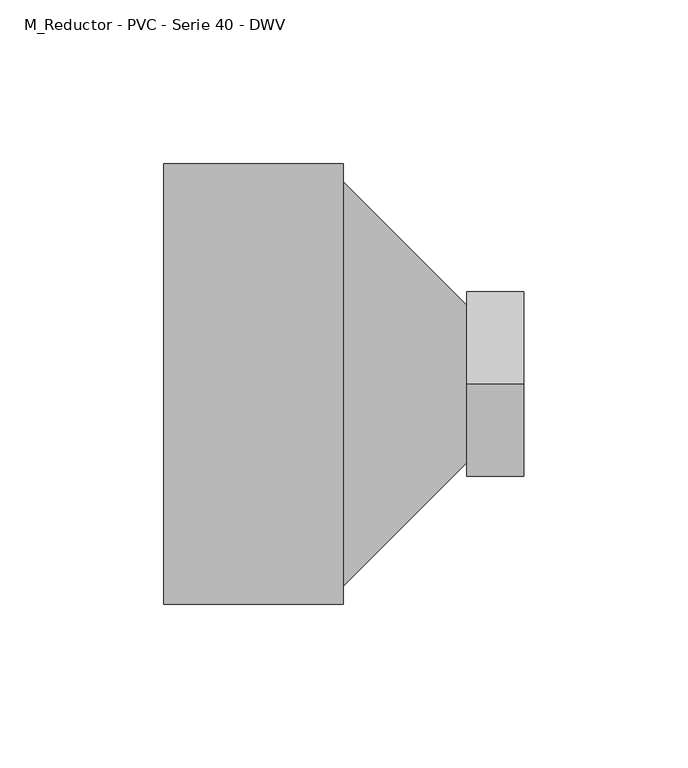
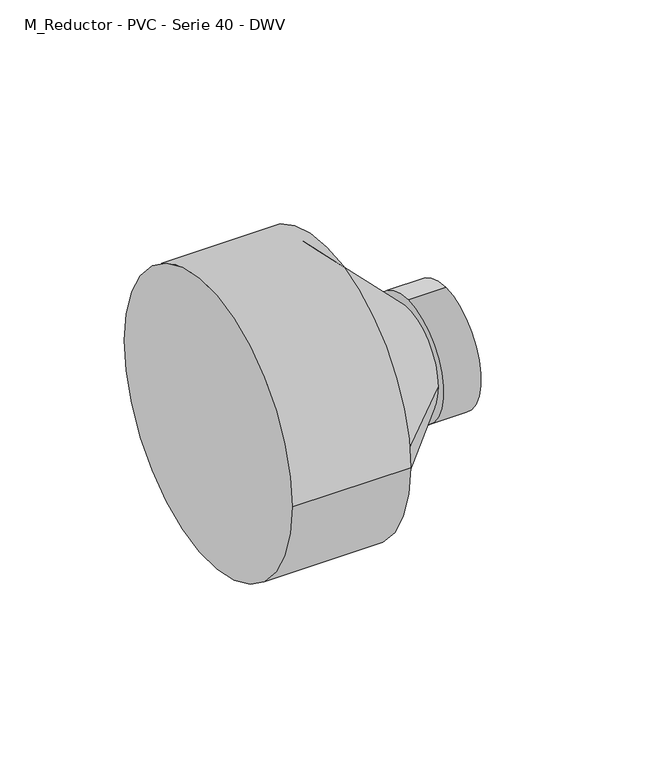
"""IFC4 building model written with IfcOpenShell, lengths in millimetres: pipe fitting geometry, M_Reductor - PVC - Serie 40 - DWV : Estándar."""

from ifc_helpers import new_model, si_unit, frame, origin, place, context, project, spatial, polyline, circle_curve, source, transform, mapped, element, save
from ifc_brep_helpers import plane_surface, cylinder_surface, revolved_surface, advanced_brep


def m_reductor_pvc_serie_40_dwv_9124daea(model_context):
    return source(origin(), model_context, "Body", "AdvancedBrep", [
        advanced_brep(
        [(0.0, -67.3871094, 0.0), (0.0, 67.3871094, 0.0), (55.0, -67.3871094, 0.0), (55.0, 67.3871094, 0.0), (55.0, 61.7640625, 0.0), (55.0, -61.7640625, 0.0), (92.7462938, 24.13, 0.0), (92.7462938, -24.13, 0.0), (92.7462938, 0.0, 28.2829), (92.7462938, 0.0, -28.2829), (110.1960938, 0.0, 28.2829), (110.1960938, 0.0, -28.2829)],
        [
            (0, 1, circle_curve(frame((0.0, 0.0, 0.0), z_axis=(-1.0, 0.0, 0.0), x_axis=(0.0, 1.0, 0.0)), 67.3871094)),
            (1, 0, circle_curve(frame((0.0, 0.0, 0.0), z_axis=(-1.0, 0.0, 0.0), x_axis=(0.0, 1.0, 0.0)), 67.3871094)),
            (2, 3, circle_curve(frame((55.0, 0.0, 0.0), z_axis=(1.0, 0.0, 0.0), x_axis=(0.0, 1.0, 0.0)), 67.3871094)),
            (3, 2, circle_curve(frame((55.0, 0.0, 0.0), z_axis=(1.0, 0.0, 0.0), x_axis=(0.0, 1.0, 0.0)), 67.3871094)),
            (4, 5, circle_curve(frame((55.0, 0.0, 0.0), z_axis=(-1.0, 0.0, 0.0), x_axis=(0.0, -1.0, 0.0)), 61.7640625)),
            (5, 4, circle_curve(frame((55.0, 0.0, 0.0), z_axis=(-1.0, 0.0, 0.0), x_axis=(0.0, 1.0, 0.0)), 61.7640625)),
            (0, 2),
            (3, 1),
            (4, 6),
            (6, 7, circle_curve(frame((92.7462938, 0.0, 0.0), z_axis=(-1.0, 0.0, 0.0), x_axis=(0.0, -1.0, 0.0)), 24.13)),
            (7, 5),
            (7, 6, circle_curve(frame((92.7462938, 0.0, 0.0), z_axis=(-1.0, 0.0, 0.0), x_axis=(0.0, 1.0, 0.0)), 24.13)),
            (8, 9, circle_curve(frame((92.7462938, 0.0, 0.0), z_axis=(-1.0, 0.0, 0.0), x_axis=(0.0, 0.0, -1.0)), 28.2829)),
            (9, 8, circle_curve(frame((92.7462938, 0.0, 0.0), z_axis=(-1.0, 0.0, 0.0), x_axis=(0.0, 0.0, -1.0)), 28.2829)),
            (10, 11, circle_curve(frame((110.1960938, 0.0, 0.0), z_axis=(1.0, 0.0, 0.0), x_axis=(0.0, 0.0, -1.0)), 28.2829)),
            (11, 10, circle_curve(frame((110.1960938, 0.0, 0.0), z_axis=(1.0, 0.0, 0.0), x_axis=(0.0, 0.0, -1.0)), 28.2829)),
            (8, 10),
            (11, 9),
        ],
        [
            plane_surface(frame((0.0, 0.0, 0.0), z_axis=(-1.0, 0.0, 0.0), x_axis=(0.0, 0.0, 1.0))),
            plane_surface(frame((55.0, 0.0, 0.0), z_axis=(1.0, 0.0, 0.0), x_axis=(0.0, 0.0, 1.0))),
            cylinder_surface(frame((0.0, 0.0, 0.0), z_axis=(-1.0, 0.0, 0.0), x_axis=(0.0, 1.0, 0.0)), 67.3871094),
            revolved_surface(polyline([(92.7462938, 24.12999997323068, 0.0), (55.0, 61.7640625, 0.0)]), (116.9482536, 0.0, 0.0), (-1.0, 0.0, 0.0)),
            plane_surface(frame((92.7462938, 0.0, 0.0), z_axis=(-1.0, 0.0, 0.0), x_axis=(0.0, 1.0, 0.0))),
            plane_surface(frame((110.1960938, 0.0, 0.0), z_axis=(1.0, 0.0, 0.0), x_axis=(0.0, 1.0, 0.0))),
            cylinder_surface(frame((92.7462938, 0.0, 0.0), z_axis=(-1.0, 0.0, 0.0), x_axis=(0.0, 0.0, -1.0)), 28.2829),
        ],
        [
            (0, [[1, 2]]),
            (1, [[3, 4], [5, 6]]),
            (2, [[-1, 7, -4, 8]]),
            (2, [[-2, -8, -3, -7]]),
            (3, [[9, 10, 11, -5]]),
            (3, [[-9, -6, -11, 12]]),
            (4, [[13, 14], [-10, -12]]),
            (5, [[15, 16]]),
            (6, [[-13, 17, -16, 18]]),
            (6, [[-14, -18, -15, -17]]),
        ],
    ),
    ])


if __name__ == "__main__":
    model = new_model("IFC4")
    model_context = context("Model", 3, world=origin())
    ifc_project = project(units=[si_unit("LENGTHUNIT", "METRE", prefix="MILLI")], contexts=[model_context])
    site = spatial("IfcSite", under=ifc_project)
    building = spatial("IfcBuilding", under=site)
    placement = place(None, origin())
    m_reductor_pvc_serie_40_dwv_shape = m_reductor_pvc_serie_40_dwv_9124daea(model_context)
    element("IfcPipeFitting", 1, ObjectType="M_Reductor - PVC - Serie 40 - DWV : Estándar", at=placement, inside=building, context=model_context, shape_type="MappedRepresentation", body=[
        mapped(m_reductor_pvc_serie_40_dwv_shape, transform((0.0, 0.0, 0.0), x_axis=(1.0, 0.0, 0.0), y_axis=(0.0, 1.0, 0.0), z_axis=(0.0, 0.0, 1.0))),
    ])
    save(model, "model.ifc")
